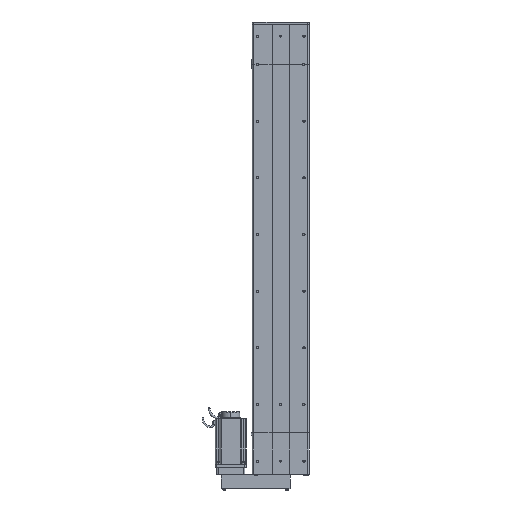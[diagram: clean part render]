
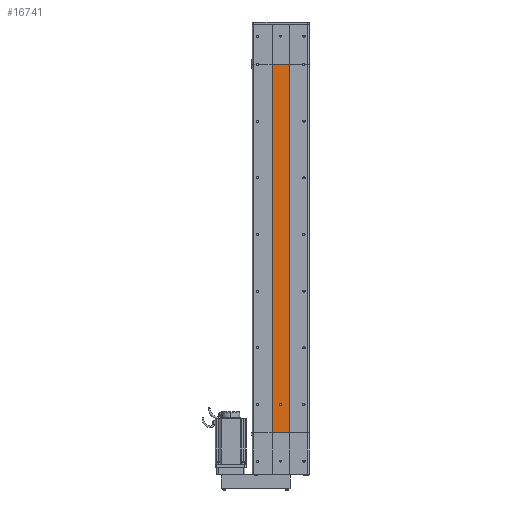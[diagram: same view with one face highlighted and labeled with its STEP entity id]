
A CAD part, front view. The second image highlights one B-rep face of the part: STEP entity #16741.
In plain terms, the highlighted planar face has unit normal (0, -1, 0).
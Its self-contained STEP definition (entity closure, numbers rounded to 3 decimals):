
#15186 = VERTEX_POINT ( 'NONE', #68202 ) ;
#16643 = EDGE_CURVE ( 'NONE', #36327, #36378, #68372, .T. ) ;
#16699 = EDGE_CURVE ( 'NONE', #15186, #27346, #68276, .T. ) ;
#16706 = ORIENTED_EDGE ( 'NONE', *, *, #16951, .T. ) ;
#16738 = EDGE_LOOP ( 'NONE', ( #16910, #16949, #16945, #16706 ) ) ;
#16741 = ADVANCED_FACE ( 'NONE', ( #68334, #68284 ), #68283, .F. ) ;
#16742 = ORIENTED_EDGE ( 'NONE', *, *, #36328, .F. ) ;
#16910 = ORIENTED_EDGE ( 'NONE', *, *, #27322, .T. ) ;
#16920 = ORIENTED_EDGE ( 'NONE', *, *, #16643, .F. ) ;
#16944 = EDGE_LOOP ( 'NONE', ( #16920, #16742 ) ) ;
#16945 = ORIENTED_EDGE ( 'NONE', *, *, #17182, .F. ) ;
#16949 = ORIENTED_EDGE ( 'NONE', *, *, #16699, .F. ) ;
#16951 = EDGE_CURVE ( 'NONE', #17048, #27339, #68583, .T. ) ;
#17048 = VERTEX_POINT ( 'NONE', #68495 ) ;
#17182 = EDGE_CURVE ( 'NONE', #17048, #15186, #68732, .T. ) ;
#27322 = EDGE_CURVE ( 'NONE', #27339, #27346, #71719, .T. ) ;
#27339 = VERTEX_POINT ( 'NONE', #71868 ) ;
#27346 = VERTEX_POINT ( 'NONE', #71799 ) ;
#36327 = VERTEX_POINT ( 'NONE', #41747 ) ;
#36328 = EDGE_CURVE ( 'NONE', #36378, #36327, #41721, .T. ) ;
#36378 = VERTEX_POINT ( 'NONE', #41632 ) ;
#41632 = CARTESIAN_POINT ( 'NONE',  ( 0., -32.5, 103. ) ) ;
#41720 = CARTESIAN_POINT ( 'NONE',  ( 0., -32.5, 100. ) ) ;
#41721 = CIRCLE ( 'NONE', #41824, 3. ) ;
#41747 = CARTESIAN_POINT ( 'NONE',  ( 0., -32.5, 97. ) ) ;
#41775 = DIRECTION ( 'NONE',  ( 0., 0., -1. ) ) ;
#41796 = DIRECTION ( 'NONE',  ( 0., -1., 0. ) ) ;
#41824 = AXIS2_PLACEMENT_3D ( 'NONE', #41720, #41796, #41775 ) ;
#68202 = CARTESIAN_POINT ( 'NONE',  ( -30., -32.5, 0. ) ) ;
#68267 = AXIS2_PLACEMENT_3D ( 'NONE', #68453, #68373, #68305 ) ;
#68276 = LINE ( 'NONE', #68288, #68287 ) ;
#68283 = PLANE ( 'NONE',  #68324 ) ;
#68284 = FACE_OUTER_BOUND ( 'NONE', #16738, .T. ) ;
#68286 = DIRECTION ( 'NONE',  ( 0., 0., 1. ) ) ;
#68287 = VECTOR ( 'NONE', #68286, 1000. ) ;
#68288 = CARTESIAN_POINT ( 'NONE',  ( -30., -32.5, 0. ) ) ;
#68303 = DIRECTION ( 'NONE',  ( 0., 0., 1. ) ) ;
#68305 = DIRECTION ( 'NONE',  ( 0., 0., -1. ) ) ;
#68324 = AXIS2_PLACEMENT_3D ( 'NONE', #68458, #68457, #68303 ) ;
#68334 = FACE_BOUND ( 'NONE', #16944, .T. ) ;
#68372 = CIRCLE ( 'NONE', #68267, 3. ) ;
#68373 = DIRECTION ( 'NONE',  ( 0., -1., 0. ) ) ;
#68453 = CARTESIAN_POINT ( 'NONE',  ( 0., -32.5, 100. ) ) ;
#68457 = DIRECTION ( 'NONE',  ( 0., 1., 0. ) ) ;
#68458 = CARTESIAN_POINT ( 'NONE',  ( -30., -32.5, 0. ) ) ;
#68473 = VECTOR ( 'NONE', #68489, 1000. ) ;
#68474 = CARTESIAN_POINT ( 'NONE',  ( 30., -32.5, 0. ) ) ;
#68489 = DIRECTION ( 'NONE',  ( 0., 0., 1. ) ) ;
#68495 = CARTESIAN_POINT ( 'NONE',  ( 30., -32.5, 0. ) ) ;
#68583 = LINE ( 'NONE', #68474, #68473 ) ;
#68649 = DIRECTION ( 'NONE',  ( -1., 0., 0. ) ) ;
#68650 = CARTESIAN_POINT ( 'NONE',  ( -30., -32.5, 0. ) ) ;
#68677 = VECTOR ( 'NONE', #68649, 1000. ) ;
#68732 = LINE ( 'NONE', #68650, #68677 ) ;
#71716 = DIRECTION ( 'NONE',  ( -1., 0., 0. ) ) ;
#71717 = VECTOR ( 'NONE', #71716, 1000. ) ;
#71718 = CARTESIAN_POINT ( 'NONE',  ( -30., -32.5, 1300. ) ) ;
#71719 = LINE ( 'NONE', #71718, #71717 ) ;
#71799 = CARTESIAN_POINT ( 'NONE',  ( -30., -32.5, 1300. ) ) ;
#71868 = CARTESIAN_POINT ( 'NONE',  ( 30., -32.5, 1300. ) ) ;
